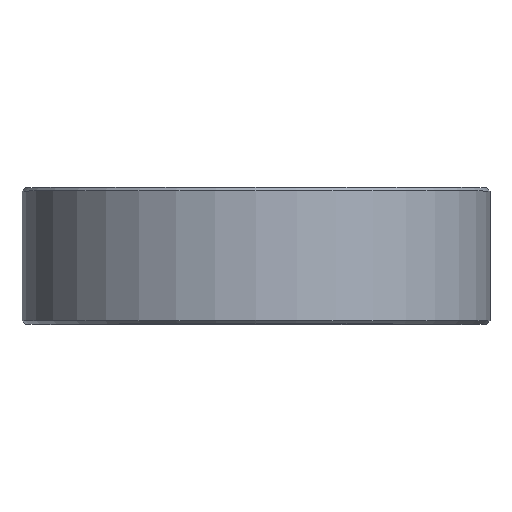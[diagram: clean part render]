
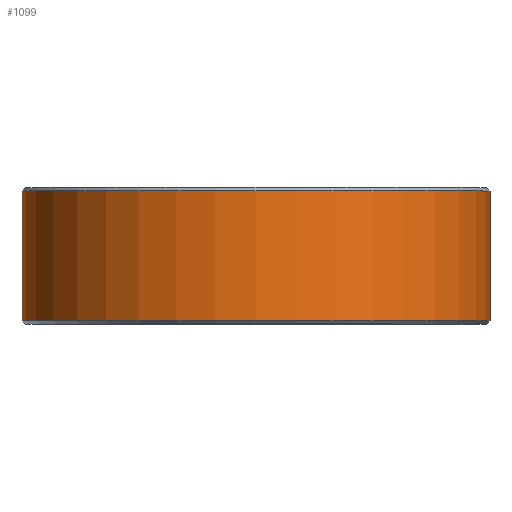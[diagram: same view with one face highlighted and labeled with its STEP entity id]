
A CAD part, top view. The second image highlights one B-rep face of the part: STEP entity #1099.
In plain terms, the highlighted cylindrical face has radius 13.7 mm (diameter 27.4 mm), a partial arc.
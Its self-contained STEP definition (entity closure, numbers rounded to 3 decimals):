
#59=DIRECTION('',(0.,-1.,0.));
#60=VECTOR('',#59,7.6);
#61=CARTESIAN_POINT('',(-13.7,7.8,0.));
#62=LINE('',#61,#60);
#231=CARTESIAN_POINT('',(0.,0.2,0.));
#232=DIRECTION('',(0.,-1.,0.));
#233=DIRECTION('',(1.,0.,0.));
#234=AXIS2_PLACEMENT_3D('',#231,#232,#233);
#236=CARTESIAN_POINT('',(0.,7.8,0.));
#237=DIRECTION('',(0.,1.,0.));
#238=DIRECTION('',(-1.,0.,0.));
#239=AXIS2_PLACEMENT_3D('',#236,#237,#238);
#241=DIRECTION('',(0.,-1.,0.));
#242=VECTOR('',#241,7.6);
#243=CARTESIAN_POINT('',(13.7,7.8,0.));
#244=LINE('',#243,#242);
#832=CARTESIAN_POINT('',(13.7,7.8,0.));
#833=VERTEX_POINT('',#832);
#834=CARTESIAN_POINT('',(-13.7,7.8,0.));
#835=VERTEX_POINT('',#834);
#836=CARTESIAN_POINT('',(13.7,0.2,0.));
#837=VERTEX_POINT('',#836);
#838=CARTESIAN_POINT('',(-13.7,0.2,0.));
#839=VERTEX_POINT('',#838);
#1087=CARTESIAN_POINT('',(0.,0.,0.));
#1088=DIRECTION('',(0.,1.,0.));
#1089=DIRECTION('',(1.,0.,0.));
#1090=AXIS2_PLACEMENT_3D('',#1087,#1088,#1089);
#1091=CYLINDRICAL_SURFACE('',#1090,13.7);
#1092=ORIENTED_EDGE('',*,*,#977,.T.);
#1093=ORIENTED_EDGE('',*,*,#1008,.F.);
#1095=ORIENTED_EDGE('',*,*,#1094,.T.);
#1096=ORIENTED_EDGE('',*,*,#1004,.T.);
#1097=EDGE_LOOP('',(#1092,#1093,#1095,#1096));
#1098=FACE_OUTER_BOUND('',#1097,.F.);
#1099=ADVANCED_FACE('',(#1098),#1091,.T.);
#235=CIRCLE('',#234,13.7);
#240=CIRCLE('',#239,13.7);
#977=EDGE_CURVE('',#837,#839,#235,.T.);
#1004=EDGE_CURVE('',#833,#837,#244,.T.);
#1008=EDGE_CURVE('',#835,#839,#62,.T.);
#1094=EDGE_CURVE('',#835,#833,#240,.T.);
